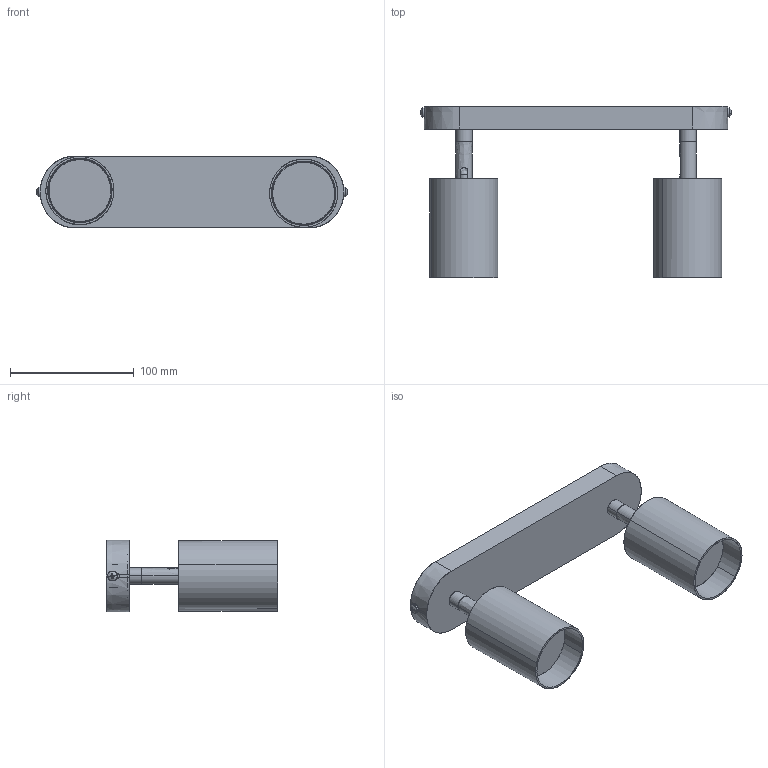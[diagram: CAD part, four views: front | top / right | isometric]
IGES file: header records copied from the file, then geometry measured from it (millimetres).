
Start section: SolidWorks IGES file using analytic representation for surfaces
Global section: file name: E:\3D lampy\Eye spot\Eye spot_II\Eye spot_II.IGS; native system: SolidWorks 2016; preprocessor: SolidWorks 2016; author: Asia; date: 170517.094450; units: millimetre
Bounding box: 251.13 x 138.57 x 58 mm (x, y, z)
Surface area: 150132.5 mm2 (no closed solid volume)
Topology: 0 solids, 0 shells, 503 faces, 8571 edges, 8533 vertices
Faces by surface type: bspline 253, revolution 250
